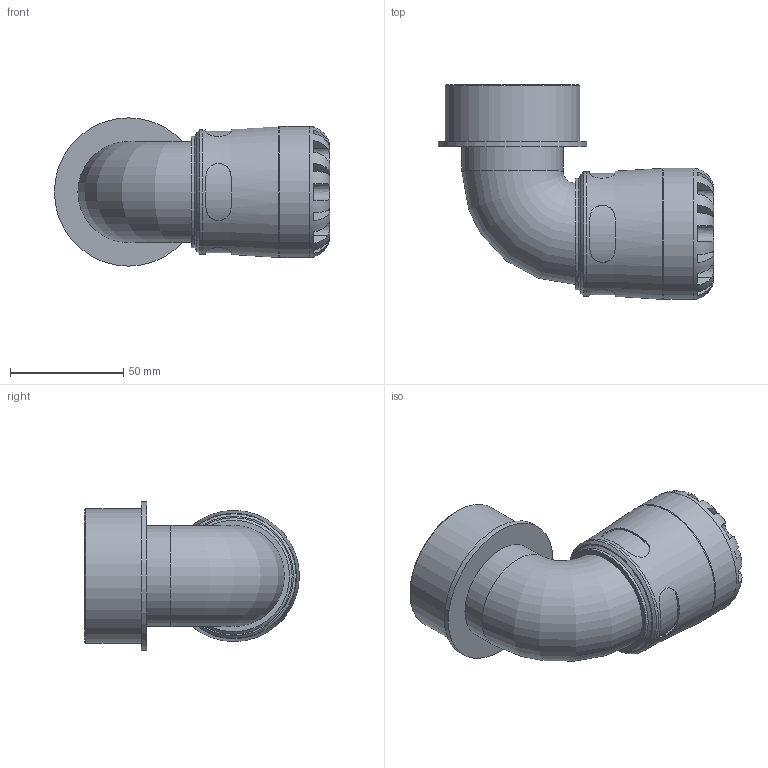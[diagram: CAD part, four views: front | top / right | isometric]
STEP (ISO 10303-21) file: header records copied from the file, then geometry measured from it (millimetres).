
FILE_DESCRIPTION(/* description */ ('PLASSON 90° ELBOW WITH THREADED MALE OFFTAKE 32X2'''' SERIES 1'),/* implementation_level */ '2;1');
FILE_NAME(/* name */ 'C:\Dropbox\KIMPROJECTS-Inventor\99-16-3568-Processing\S1\27.01.19\1085\108500032020_198500032020.ipt.stp',/* time_stamp */ '2019-01-27T09:13:36+02:00',/* author */ ('KIM'),/* organization */ (''),/* preprocessor_version */ 'ST-DEVELOPER v15.6',/* originating_system */ 'Autodesk Inventor 2015',/* authorisation */ '');
FILE_SCHEMA (('AUTOMOTIVE_DESIGN { 1 0 10303 214 3 1 1 }'));
Length unit declared in the file: millimetre
Products named in the file (1): 108500032020_198500032020
Bounding box: 121.79 x 95 x 65.58 mm (x, y, z)
Volume: 151297.5 mm3; surface area: 48764.1 mm2
Topology: 1 solids, 1 shells, 110 faces, 264 edges, 165 vertices
Faces by surface type: plane 64, cylinder 37, torus 7, cone 2
Full cylindrical faces by diameter (mm): 25 x1, 32 x1, 41.73 x1, 44.711 x1, 49.3 x1, 55.1 x1, 58 x1, 59.614 x1, 65.575 x1
Entity records: 4010 total; most frequent: CARTESIAN_POINT 1463, DIRECTION 496, ORIENTED_EDGE 482, EDGE_CURVE 241, AXIS2_PLACEMENT_3D 208, VERTEX_POINT 161, EDGE_LOOP 140, STYLED_ITEM 111
